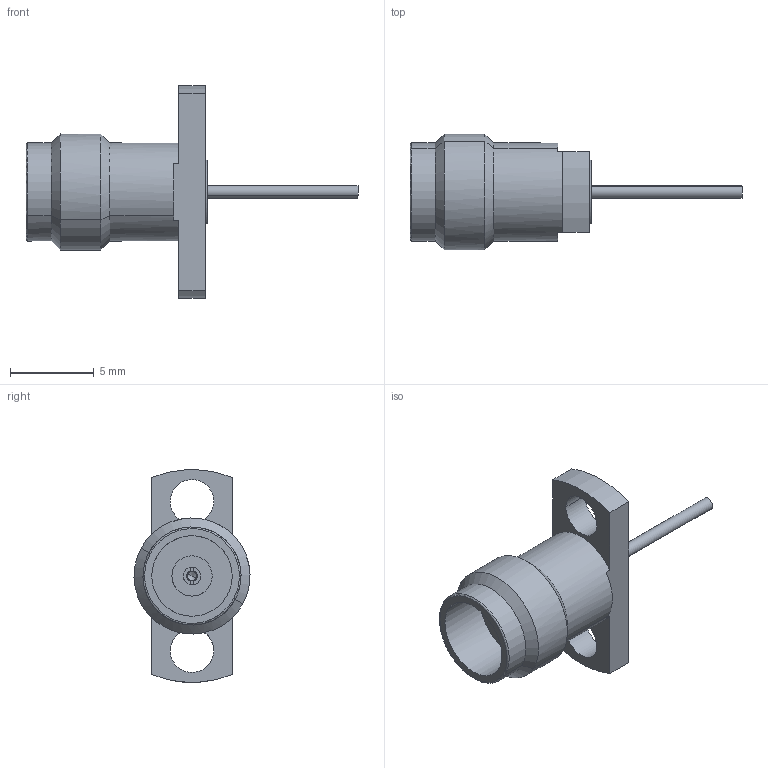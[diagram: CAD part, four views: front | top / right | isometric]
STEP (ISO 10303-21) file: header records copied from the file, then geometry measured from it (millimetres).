
FILE_DESCRIPTION(('CATIA V5 STEP Exchange'),'2;1');
FILE_NAME('F:\Work SZ\CMP 图纸\Precision Coaxial Connector\2.4mm\97-02-9E2-027\97-02-9E2-027A(REV.A).stp','2013-08-09T03:52:05+00:00',('none'),('none'),'CATIA Version 5 Release 17 (IN-10)','CATIA V5 STEP AP203','none');
FILE_SCHEMA(('CONFIG_CONTROL_DESIGN'));
Length unit declared in the file: millimetre
Products named in the file (1): 97-02-9E2-027A
Bounding box: 19.8 x 6.92 x 12.68 mm (x, y, z)
Volume: 288.8 mm3; surface area: 487.2 mm2
Topology: 1 solids, 1 shells, 62 faces, 149 edges, 93 vertices
Faces by surface type: cylinder 26, plane 21, cone 13, torus 2
Entity records: 2157 total; most frequent: CARTESIAN_POINT 813, ORIENTED_EDGE 294, DIRECTION 204, EDGE_CURVE 147, VERTEX_POINT 93, AXIS2_PLACEMENT_3D 89, EDGE_LOOP 72, VECTOR 67
